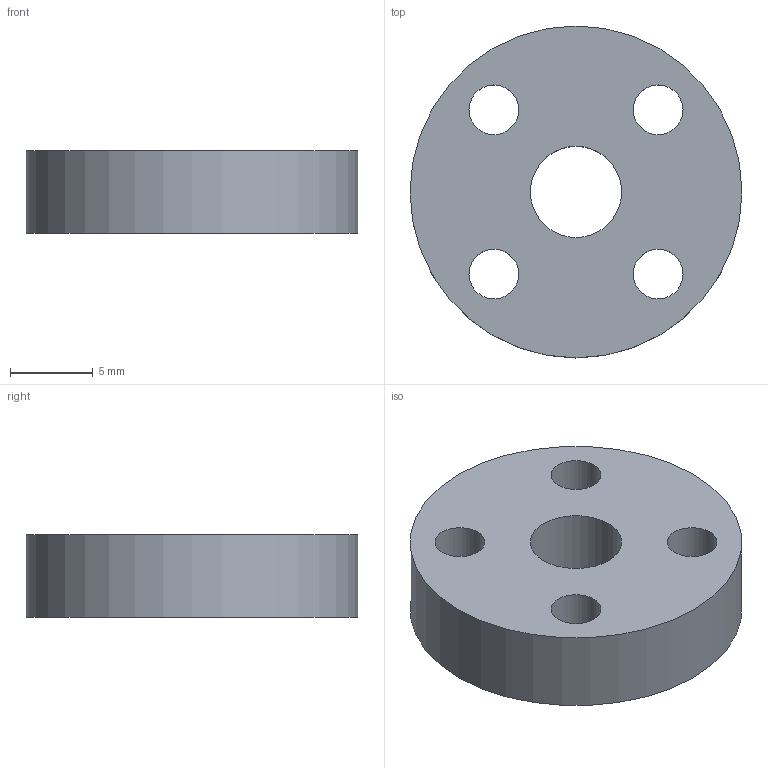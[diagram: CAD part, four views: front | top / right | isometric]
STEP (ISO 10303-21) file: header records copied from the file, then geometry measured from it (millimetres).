
FILE_DESCRIPTION(('Open CASCADE Model'),'2;1');
FILE_NAME('Open CASCADE Shape Model','2026-09-10T23:36:51',('Author'),( 'Open CASCADE'),'Open CASCADE STEP processor 7.9','Open CASCADE 7.9' ,'Unknown');
FILE_SCHEMA(('AUTOMOTIVE_DESIGN { 1 0 10303 214 1 1 1 1 }'));
Length unit declared in the file: millimetre
Products named in the file (1): Open CASCADE STEP translator 7.9 23
Bounding box: 20 x 20 x 5 mm (x, y, z)
Volume: 1310.6 mm3; surface area: 1113.3 mm2
Topology: 1 solids, 1 shells, 8 faces, 18 edges, 12 vertices
Faces by surface type: cylinder 6, plane 2
Full cylindrical faces by diameter (mm): 3 x4, 5.5 x1, 20 x1
Entity records: 528 total; most frequent: CARTESIAN_POINT 135, DIRECTION 74, ORIENTED_EDGE 36, PCURVE 36, DEFINITIONAL_REPRESENTATION 36, LINE 30, VECTOR 30, AXIS2_PLACEMENT_3D 21
